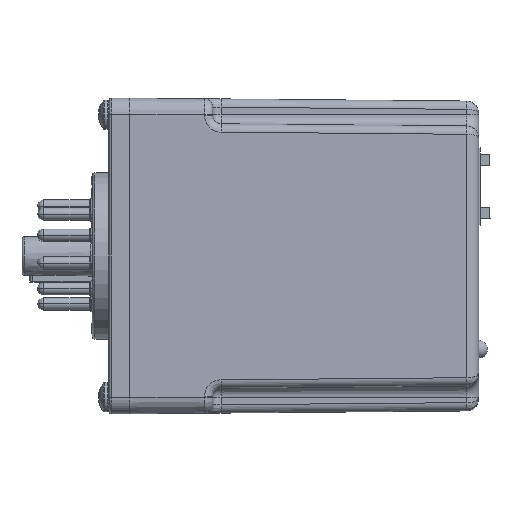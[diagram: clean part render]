
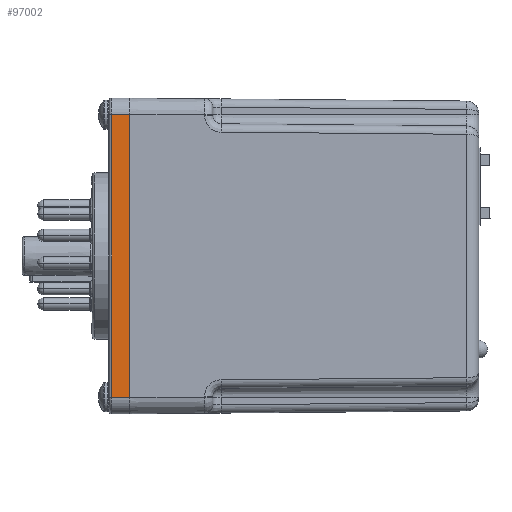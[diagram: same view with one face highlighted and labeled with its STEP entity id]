
A CAD part, left-side view. The second image highlights one B-rep face of the part: STEP entity #97002.
In plain terms, the highlighted planar face has unit normal (-1, 0, 0).
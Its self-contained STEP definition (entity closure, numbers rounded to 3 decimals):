
#75119 = CYLINDRICAL_SURFACE('',#75120,0.508);
#75120 = AXIS2_PLACEMENT_3D('',#75121,#75122,#75123);
#75121 = CARTESIAN_POINT('',(-21.717,51.257,-30.163));
#75122 = DIRECTION('',(0.,0.,1.));
#75123 = DIRECTION('',(1.,0.,0.));
#75706 = PLANE('',#75707);
#75707 = AXIS2_PLACEMENT_3D('',#75708,#75709,#75710);
#75708 = CARTESIAN_POINT('',(-22.225,47.803,-30.163));
#75709 = DIRECTION('',(0.,1.,0.));
#75710 = DIRECTION('',(1.,0.,-0.));
#82195 = VERTEX_POINT('',#82196);
#82196 = CARTESIAN_POINT('',(-22.225,47.803,26.988));
#82215 = CYLINDRICAL_SURFACE('',#82216,3.175);
#82216 = AXIS2_PLACEMENT_3D('',#82217,#82218,#82219);
#82217 = CARTESIAN_POINT('',(-19.05,47.803,26.988));
#82218 = DIRECTION('',(0.,1.,0.));
#82219 = DIRECTION('',(0.,0.,-1.));
#82227 = EDGE_CURVE('',#82228,#82195,#82230,.T.);
#82228 = VERTEX_POINT('',#82229);
#82229 = CARTESIAN_POINT('',(-22.225,47.803,-26.988));
#82230 = SURFACE_CURVE('',#82231,(#82235,#82242),.PCURVE_S1.);
#82231 = LINE('',#82232,#82233);
#82232 = CARTESIAN_POINT('',(-22.225,47.803,-30.163));
#82233 = VECTOR('',#82234,1.);
#82234 = DIRECTION('',(0.,-0.,1.));
#82235 = PCURVE('',#75706,#82236);
#82236 = DEFINITIONAL_REPRESENTATION('',(#82237),#82241);
#82237 = LINE('',#82238,#82239);
#82238 = CARTESIAN_POINT('',(0.,0.));
#82239 = VECTOR('',#82240,1.);
#82240 = DIRECTION('',(0.,-1.));
#82241 = ( GEOMETRIC_REPRESENTATION_CONTEXT(2) 
PARAMETRIC_REPRESENTATION_CONTEXT() REPRESENTATION_CONTEXT('2D SPACE',''
  ) );
#82242 = PCURVE('',#82243,#82248);
#82243 = PLANE('',#82244);
#82244 = AXIS2_PLACEMENT_3D('',#82245,#82246,#82247);
#82245 = CARTESIAN_POINT('',(-22.225,47.803,-30.163));
#82246 = DIRECTION('',(1.,0.,0.));
#82247 = DIRECTION('',(0.,0.,-1.));
#82248 = DEFINITIONAL_REPRESENTATION('',(#82249),#82253);
#82249 = LINE('',#82250,#82251);
#82250 = CARTESIAN_POINT('',(0.,0.));
#82251 = VECTOR('',#82252,1.);
#82252 = DIRECTION('',(-1.,0.));
#82253 = ( GEOMETRIC_REPRESENTATION_CONTEXT(2) 
PARAMETRIC_REPRESENTATION_CONTEXT() REPRESENTATION_CONTEXT('2D SPACE',''
  ) );
#82274 = CYLINDRICAL_SURFACE('',#82275,3.175);
#82275 = AXIS2_PLACEMENT_3D('',#82276,#82277,#82278);
#82276 = CARTESIAN_POINT('',(-19.05,51.765,-26.988));
#82277 = DIRECTION('',(0.,-1.,0.));
#82278 = DIRECTION('',(0.,0.,1.));
#97002 = ADVANCED_FACE('',(#97003),#82243,.F.);
#97003 = FACE_BOUND('',#97004,.T.);
#97004 = EDGE_LOOP('',(#97005,#97028,#97051,#97072));
#97005 = ORIENTED_EDGE('',*,*,#97006,.T.);
#97006 = EDGE_CURVE('',#82195,#97007,#97009,.T.);
#97007 = VERTEX_POINT('',#97008);
#97008 = CARTESIAN_POINT('',(-22.225,51.257,26.988));
#97009 = SURFACE_CURVE('',#97010,(#97014,#97021),.PCURVE_S1.);
#97010 = LINE('',#97011,#97012);
#97011 = CARTESIAN_POINT('',(-22.225,47.803,26.988));
#97012 = VECTOR('',#97013,1.);
#97013 = DIRECTION('',(0.,1.,0.));
#97014 = PCURVE('',#82243,#97015);
#97015 = DEFINITIONAL_REPRESENTATION('',(#97016),#97020);
#97016 = LINE('',#97017,#97018);
#97017 = CARTESIAN_POINT('',(-57.15,0.));
#97018 = VECTOR('',#97019,1.);
#97019 = DIRECTION('',(0.,1.));
#97020 = ( GEOMETRIC_REPRESENTATION_CONTEXT(2) 
PARAMETRIC_REPRESENTATION_CONTEXT() REPRESENTATION_CONTEXT('2D SPACE',''
  ) );
#97021 = PCURVE('',#82215,#97022);
#97022 = DEFINITIONAL_REPRESENTATION('',(#97023),#97027);
#97023 = LINE('',#97024,#97025);
#97024 = CARTESIAN_POINT('',(1.571,0.));
#97025 = VECTOR('',#97026,1.);
#97026 = DIRECTION('',(0.,1.));
#97027 = ( GEOMETRIC_REPRESENTATION_CONTEXT(2) 
PARAMETRIC_REPRESENTATION_CONTEXT() REPRESENTATION_CONTEXT('2D SPACE',''
  ) );
#97028 = ORIENTED_EDGE('',*,*,#97029,.T.);
#97029 = EDGE_CURVE('',#97007,#97030,#97032,.T.);
#97030 = VERTEX_POINT('',#97031);
#97031 = CARTESIAN_POINT('',(-22.225,51.257,-26.988));
#97032 = SURFACE_CURVE('',#97033,(#97037,#97044),.PCURVE_S1.);
#97033 = LINE('',#97034,#97035);
#97034 = CARTESIAN_POINT('',(-22.225,51.257,-30.163));
#97035 = VECTOR('',#97036,1.);
#97036 = DIRECTION('',(0.,0.,-1.));
#97037 = PCURVE('',#82243,#97038);
#97038 = DEFINITIONAL_REPRESENTATION('',(#97039),#97043);
#97039 = LINE('',#97040,#97041);
#97040 = CARTESIAN_POINT('',(0.,3.454));
#97041 = VECTOR('',#97042,1.);
#97042 = DIRECTION('',(1.,0.));
#97043 = ( GEOMETRIC_REPRESENTATION_CONTEXT(2) 
PARAMETRIC_REPRESENTATION_CONTEXT() REPRESENTATION_CONTEXT('2D SPACE',''
  ) );
#97044 = PCURVE('',#75119,#97045);
#97045 = DEFINITIONAL_REPRESENTATION('',(#97046),#97050);
#97046 = LINE('',#97047,#97048);
#97047 = CARTESIAN_POINT('',(3.142,0.));
#97048 = VECTOR('',#97049,1.);
#97049 = DIRECTION('',(0.,-1.));
#97050 = ( GEOMETRIC_REPRESENTATION_CONTEXT(2) 
PARAMETRIC_REPRESENTATION_CONTEXT() REPRESENTATION_CONTEXT('2D SPACE',''
  ) );
#97051 = ORIENTED_EDGE('',*,*,#97052,.T.);
#97052 = EDGE_CURVE('',#97030,#82228,#97053,.T.);
#97053 = SURFACE_CURVE('',#97054,(#97058,#97065),.PCURVE_S1.);
#97054 = LINE('',#97055,#97056);
#97055 = CARTESIAN_POINT('',(-22.225,47.803,-26.988));
#97056 = VECTOR('',#97057,1.);
#97057 = DIRECTION('',(0.,-1.,0.));
#97058 = PCURVE('',#82243,#97059);
#97059 = DEFINITIONAL_REPRESENTATION('',(#97060),#97064);
#97060 = LINE('',#97061,#97062);
#97061 = CARTESIAN_POINT('',(-3.175,0.));
#97062 = VECTOR('',#97063,1.);
#97063 = DIRECTION('',(0.,-1.));
#97064 = ( GEOMETRIC_REPRESENTATION_CONTEXT(2) 
PARAMETRIC_REPRESENTATION_CONTEXT() REPRESENTATION_CONTEXT('2D SPACE',''
  ) );
#97065 = PCURVE('',#82274,#97066);
#97066 = DEFINITIONAL_REPRESENTATION('',(#97067),#97071);
#97067 = LINE('',#97068,#97069);
#97068 = CARTESIAN_POINT('',(1.571,3.962));
#97069 = VECTOR('',#97070,1.);
#97070 = DIRECTION('',(0.,1.));
#97071 = ( GEOMETRIC_REPRESENTATION_CONTEXT(2) 
PARAMETRIC_REPRESENTATION_CONTEXT() REPRESENTATION_CONTEXT('2D SPACE',''
  ) );
#97072 = ORIENTED_EDGE('',*,*,#82227,.T.);
